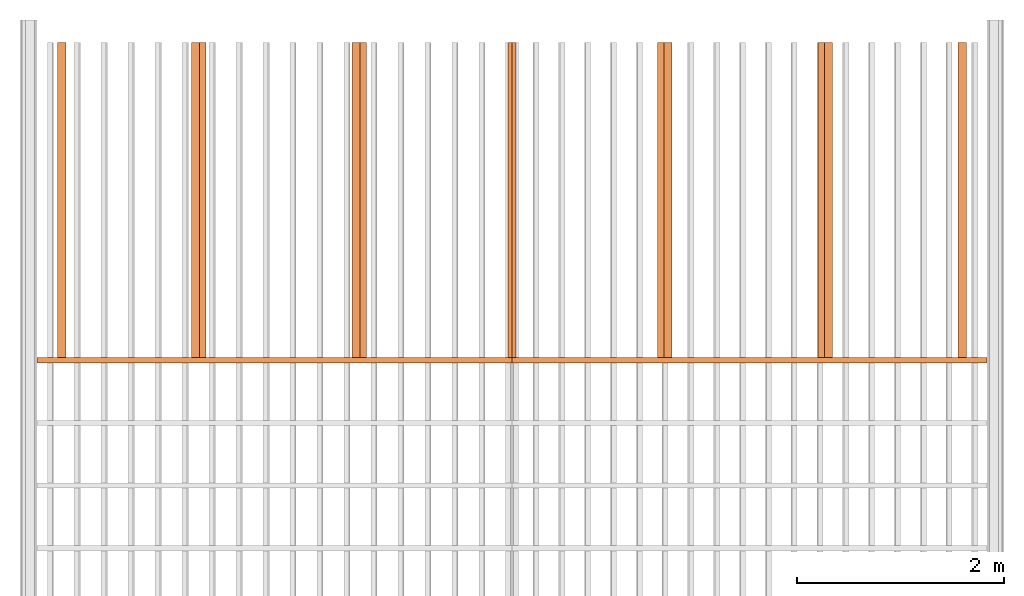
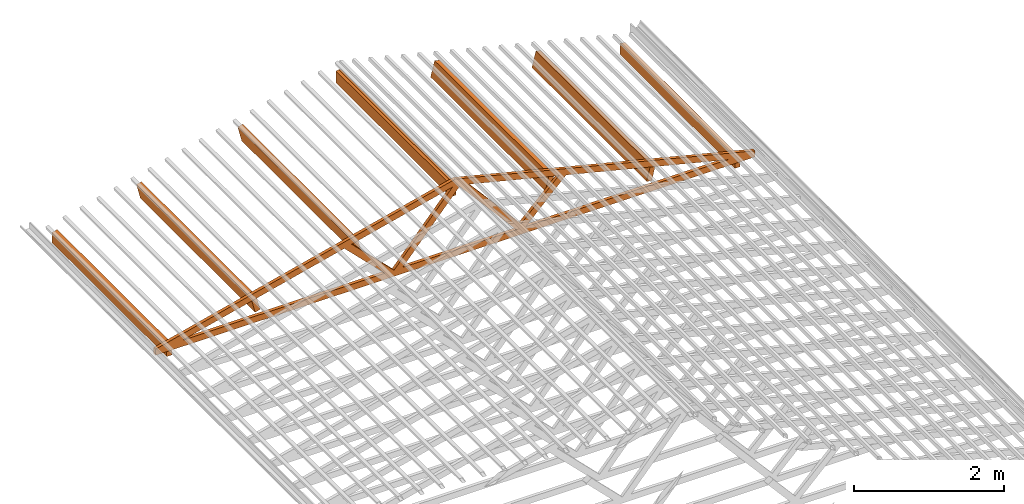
# One storey, part 4 of 4: 2 proxies.
"""IFC2X3 building model written with IfcOpenShell, lengths in metres."""

from ifc_helpers import new_model, entity, si_unit, converted_unit, derived_unit, direction, frame, frame_2d, origin, place, context, subcontext, project, spatial, polyline, rectangle, outline, extrude, source, transform, mapped, material, type_object, type_shapes, element, save


model = new_model("IFC2X3")

# Units and contexts
model_context = context("Model", 3, precision=1e-05, world=origin(), true_north=direction((6.123031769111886e-17, 1.0)))
body_context = subcontext(model_context, "Body", "Model", "MODEL_VIEW")
ifc_project = project(units=[si_unit("LENGTHUNIT", "METRE"), si_unit("AREAUNIT", "SQUARE_METRE"), si_unit("VOLUMEUNIT", "CUBIC_METRE"), converted_unit("PLANEANGLEUNIT", "DEGREE", entity("IfcRatioMeasure", 0.017453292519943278), si_unit("PLANEANGLEUNIT", "RADIAN"), dimensions=[0, 0, 0, 0, 0, 0, 0]), si_unit("MASSUNIT", "GRAM", prefix="KILO"), derived_unit("MASSDENSITYUNIT", [(si_unit("MASSUNIT", "GRAM", prefix="KILO"), 1), (si_unit("LENGTHUNIT", "METRE"), -3)]), derived_unit("IONCONCENTRATIONUNIT", [(si_unit("MASSUNIT", "GRAM", prefix="KILO"), 1), (si_unit("LENGTHUNIT", "METRE"), -3)]), derived_unit("MOMENTOFINERTIAUNIT", [(si_unit("LENGTHUNIT", "METRE"), 4)]), si_unit("TIMEUNIT", "SECOND"), si_unit("FREQUENCYUNIT", "HERTZ"), si_unit("THERMODYNAMICTEMPERATUREUNIT", "DEGREE_CELSIUS"), derived_unit("THERMALTRANSMITTANCEUNIT", [(si_unit("MASSUNIT", "GRAM", prefix="KILO"), 1), (si_unit("THERMODYNAMICTEMPERATUREUNIT", "KELVIN"), -1), (si_unit("TIMEUNIT", "SECOND"), -3)]), derived_unit("THERMALCONDUCTANCEUNIT", [(si_unit("MASSUNIT", "GRAM", prefix="KILO"), 1), (si_unit("THERMODYNAMICTEMPERATUREUNIT", "KELVIN"), -1), (si_unit("TIMEUNIT", "SECOND"), -3), (si_unit("LENGTHUNIT", "METRE"), 1)]), derived_unit("VOLUMETRICFLOWRATEUNIT", [(si_unit("LENGTHUNIT", "METRE"), 3), (si_unit("TIMEUNIT", "SECOND"), -1)]), derived_unit("MASSFLOWRATEUNIT", [(si_unit("MASSUNIT", "GRAM", prefix="KILO"), 1), (si_unit("TIMEUNIT", "SECOND"), -1)]), derived_unit("ROTATIONALFREQUENCYUNIT", [(si_unit("TIMEUNIT", "SECOND"), -1)]), si_unit("ELECTRICCURRENTUNIT", "AMPERE"), si_unit("ELECTRICVOLTAGEUNIT", "VOLT"), si_unit("POWERUNIT", "WATT"), si_unit("FORCEUNIT", "NEWTON", prefix="KILO"), si_unit("ILLUMINANCEUNIT", "LUX"), si_unit("LUMINOUSFLUXUNIT", "LUMEN"), si_unit("LUMINOUSINTENSITYUNIT", "CANDELA"), derived_unit("USERDEFINED", [(si_unit("MASSUNIT", "GRAM", prefix="KILO"), -1), (si_unit("LENGTHUNIT", "METRE"), -2), (si_unit("TIMEUNIT", "SECOND"), 3), (si_unit("LUMINOUSFLUXUNIT", "LUMEN"), 1)]), derived_unit("USERDEFINED", [(si_unit("MASSUNIT", "GRAM", prefix="KILO"), 1), (si_unit("TIMEUNIT", "SECOND"), -3), (si_unit("LENGTHUNIT", "METRE"), 3), (si_unit("ELECTRICCURRENTUNIT", "AMPERE"), -2)]), derived_unit("SOUNDPOWERUNIT", [(si_unit("MASSUNIT", "GRAM", prefix="KILO"), 1), (si_unit("TIMEUNIT", "SECOND"), -3), (si_unit("LENGTHUNIT", "METRE"), 2)]), derived_unit("SOUNDPRESSUREUNIT", [(si_unit("MASSUNIT", "GRAM", prefix="KILO"), 1), (si_unit("LENGTHUNIT", "METRE"), -1), (si_unit("TIMEUNIT", "SECOND"), -2)]), derived_unit("LINEARVELOCITYUNIT", [(si_unit("LENGTHUNIT", "METRE"), 1), (si_unit("TIMEUNIT", "SECOND"), -1)]), si_unit("PRESSUREUNIT", "PASCAL"), derived_unit("USERDEFINED", [(si_unit("MASSUNIT", "GRAM", prefix="KILO"), 1), (si_unit("LENGTHUNIT", "METRE"), -2), (si_unit("TIMEUNIT", "SECOND"), -2)]), derived_unit("LINEARFORCEUNIT", [(si_unit("MASSUNIT", "GRAM", prefix="KILO"), 1), (si_unit("TIMEUNIT", "SECOND"), -2)]), derived_unit("PLANARFORCEUNIT", [(si_unit("MASSUNIT", "GRAM", prefix="KILO"), 1), (si_unit("LENGTHUNIT", "METRE"), -1), (si_unit("TIMEUNIT", "SECOND"), -2)]), derived_unit("SPECIFICHEATCAPACITYUNIT", [(si_unit("THERMODYNAMICTEMPERATUREUNIT", "KELVIN"), -1), (si_unit("LENGTHUNIT", "METRE"), 2), (si_unit("TIMEUNIT", "SECOND"), -2)]), derived_unit("HEATINGVALUEUNIT", [(si_unit("LENGTHUNIT", "METRE"), 2), (si_unit("TIMEUNIT", "SECOND"), -2)]), derived_unit("VAPORPERMEABILITYUNIT", [(si_unit("LENGTHUNIT", "METRE"), -1), (si_unit("TIMEUNIT", "SECOND"), 1)]), derived_unit("DYNAMICVISCOSITYUNIT", [(si_unit("MASSUNIT", "GRAM", prefix="KILO"), 1), (si_unit("TIMEUNIT", "SECOND"), -1), (si_unit("LENGTHUNIT", "METRE"), -1)]), derived_unit("THERMALEXPANSIONCOEFFICIENTUNIT", [(si_unit("THERMODYNAMICTEMPERATUREUNIT", "KELVIN"), -1)]), derived_unit("MODULUSOFELASTICITYUNIT", [(si_unit("MASSUNIT", "GRAM", prefix="KILO"), 1), (si_unit("LENGTHUNIT", "METRE"), -1), (si_unit("TIMEUNIT", "SECOND"), -2)]), derived_unit("ISOTHERMALMOISTURECAPACITYUNIT", [(si_unit("LENGTHUNIT", "METRE"), 3), (si_unit("MASSUNIT", "GRAM", prefix="KILO"), -1)]), derived_unit("MOISTUREDIFFUSIVITYUNIT", [(si_unit("TIMEUNIT", "SECOND"), -1), (si_unit("LENGTHUNIT", "METRE"), 2)])], contexts=[model_context])

# Site, building, storey
site_placement = place(None, frame((1.2553507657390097, -0.6266432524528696, -1.0397761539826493), z_axis=(0.0, 0.0, 1.0), x_axis=(-1.0, 0.0, 0.0)))
site = spatial("IfcSite", under=ifc_project, at=site_placement, Name="Default", CompositionType="ELEMENT")
building_placement = place(site_placement, origin())
building = spatial("IfcBuilding", under=site, at=building_placement, Name="MAISON D'HABITATION", CompositionType="ELEMENT")
storey_placement = place(building_placement, frame((0.0, 0.0, 3.569776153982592)))
storey = spatial("IfcBuildingStorey", under=building, at=storey_placement, Name="Niveau .....", CompositionType="ELEMENT", Elevation=3.569776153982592)

# Proxies
ifc_material = material(Name="<Unnamed>")
building_element_proxy_type_1 = type_object("IfcBuildingElementProxyType", Name="Ossature 16:Ossature 16", PredefinedType="NOTDEFINED", material=ifc_material)
shared_shape_1 = source(origin(), body_context, "Body", "SweptSolid", [
    extrude(outline(polyline([(-0.04000000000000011, -0.08846869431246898), (0.03999999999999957, -0.08846869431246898), (0.04000000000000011, 0.0984714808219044), (-0.03999999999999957, 0.07846590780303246), (-0.04000000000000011, -0.08846869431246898)])), frame((4.080133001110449, -8.463816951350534, 3.648244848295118), z_axis=(0.0, 1.0, 0.0), x_axis=(-1.0, 0.0, 0.0)), (0.0, 0.0, 1.0), 3.050000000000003),
    extrude(outline(polyline([(-0.08846869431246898, -0.04000000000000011), (0.07846590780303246, -0.04000000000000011), (0.0984714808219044, 0.03999999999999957), (-0.08846869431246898, 0.04000000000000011), (-0.08846869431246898, -0.04000000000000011)])), frame((-4.639866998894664, -8.463816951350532, 3.648244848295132), z_axis=(0.0, 1.0, 0.0), x_axis=(0.0, 0.0, 1.0)), (0.0, 0.0, 1.0), 3.050000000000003),
    extrude(outline(polyline([(-0.09333147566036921, -0.040000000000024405), (0.09666573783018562, -0.040000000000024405), (0.09666573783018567, 0.0), (0.09666573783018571, 0.04000000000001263), (-0.09333147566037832, 0.04000000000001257), (-0.10333426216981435, 0.0), (-0.09333147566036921, -0.040000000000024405)])), frame((-0.2798669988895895, -8.463816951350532, 4.723683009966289), z_axis=(0.0, 1.0, 0.0), x_axis=(0.0, 0.0, -1.0)), (0.0, 0.0, 1.0), 3.050000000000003),
    extrude(rectangle(XDim=0.2535672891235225, YDim=0.08000000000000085, at=frame_2d((-2.7755575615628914e-16, 0.0), x_axis=(1.0, 0.0))), frame((1.2004032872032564, -8.463816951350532, 4.326158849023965), z_axis=(0.0, 1.0, 0.0), x_axis=(-0.24259923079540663, 0.0, -0.970126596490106)), (0.0, 0.0, 1.0), 3.050000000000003),
    extrude(rectangle(XDim=0.25356728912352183, YDim=0.08000000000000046, at=frame_2d((1.97758476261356e-16, -3.3306690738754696e-16), x_axis=(0.0, 1.0))), frame((2.755516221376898, -8.463816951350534, 3.937272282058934), z_axis=(0.0, 1.0, 0.0), x_axis=(0.9701265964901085, 0.0, -0.24259923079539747)), (0.0, 0.0, 1.0), 3.050000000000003),
    extrude(rectangle(XDim=0.2535672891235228, YDim=0.08000000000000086, at=frame_2d((-2.636779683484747e-16, -6.938893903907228e-17), x_axis=(0.0, 1.0))), frame((-1.7601372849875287, -8.463816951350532, 4.326158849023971), z_axis=(0.0, 1.0, 0.0), x_axis=(0.9701265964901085, 0.0, 0.24259923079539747)), (0.0, 0.0, 1.0), 3.050000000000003),
    extrude(rectangle(XDim=0.25356728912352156, YDim=0.08000000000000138, at=frame_2d((-2.7755575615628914e-16, -6.245004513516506e-17), x_axis=(1.0, 0.0))), frame((-3.315250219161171, -8.463816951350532, 3.9372722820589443), z_axis=(0.0, 1.0, 0.0), x_axis=(0.24259923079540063, 0.0, -0.9701265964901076)), (0.0, 0.0, 1.0), 3.050000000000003),
])
type_shapes(building_element_proxy_type_1, [shared_shape_1])
proxy_1_placement = place(storey_placement, frame((0.0, 0.0, -3.569776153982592)))
element("IfcBuildingElementProxy", 1, at=proxy_1_placement, inside=storey, type_object=building_element_proxy_type_1, material=ifc_material, Name="Ossature 16:Ossature 16", ObjectType="Ossature 16:Ossature 16", context=body_context, shape_type="MappedRepresentation", body=[
    mapped(shared_shape_1, transform((0.0, 0.0, 0.0), scale=1.0)),
])
building_element_proxy_type_2 = type_object("IfcBuildingElementProxyType", Name="Ossature 1:Ossature 1", PredefinedType="NOTDEFINED", material=ifc_material)
shared_shape_2 = source(origin(), body_context, "Body", "SweptSolid", [
    extrude(outline(polyline([(-0.29006408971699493, -4.599999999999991), (-0.19006408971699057, -4.599999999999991), (0.960256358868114, 0.0), (-0.19006408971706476, 4.600000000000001), (-0.29006408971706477, 4.600000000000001), (-0.29006408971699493, -4.599999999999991)]), holes=[polyline([(0.4313496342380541, -1.7028350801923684), (-0.19006408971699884, -4.187797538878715), (-0.19006408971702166, -1.0814213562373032), (0.4313496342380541, -1.7028350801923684)]), polyline([(-0.19006408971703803, 1.0814213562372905), (-0.19006408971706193, 4.187797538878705), (0.4313496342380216, 1.7028350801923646), (-0.19006408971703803, 1.0814213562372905)]), polyline([(-0.19006408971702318, -0.9399999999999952), (-0.19006408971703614, 0.8076775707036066), (0.8183380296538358, -0.06616121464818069), (-0.19006408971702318, -0.9399999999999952)]), polyline([(-0.19006408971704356, 0.9399999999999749), (0.4596402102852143, 1.5897043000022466), (0.8467997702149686, 0.041497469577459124), (-0.19006408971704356, 0.9399999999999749)]), polyline([(0.4596402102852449, -1.5897043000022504), (-0.11917294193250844, -1.0108911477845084), (0.8045556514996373, -0.21042687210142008), (0.4596402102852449, -1.5897043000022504)])]), frame((-0.2798669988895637, -11.313816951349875, 3.969840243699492), z_axis=(0.0, 1.0, 0.0), x_axis=(0.0, 0.0, 1.0)), (0.0, 0.0, 1.0), 0.04999999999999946),
])
type_shapes(building_element_proxy_type_2, [shared_shape_2])
proxy_2_placement = place(storey_placement, frame((0.0, 5.899999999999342, -3.569776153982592)))
element("IfcBuildingElementProxy", 2, at=proxy_2_placement, inside=storey, type_object=building_element_proxy_type_2, material=ifc_material, Name="Ossature 1:Ossature 1", ObjectType="Ossature 1:Ossature 1", context=body_context, shape_type="MappedRepresentation", body=[
    mapped(shared_shape_2, transform((0.0, 0.0, 0.0), scale=1.0)),
])

save(model, "model.ifc")
